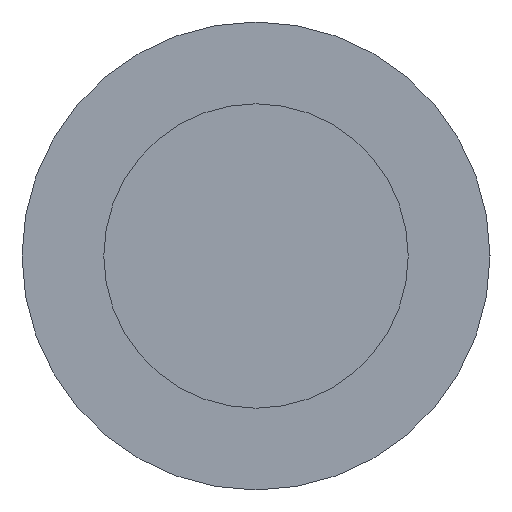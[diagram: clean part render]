
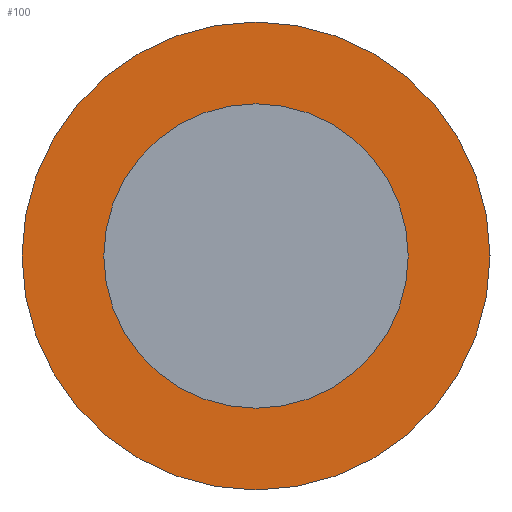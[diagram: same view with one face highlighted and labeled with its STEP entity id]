
A CAD part, left-side view. The second image highlights one B-rep face of the part: STEP entity #100.
In plain terms, the highlighted planar face has unit normal (-1, 0, 0).
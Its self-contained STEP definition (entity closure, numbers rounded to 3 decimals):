
#100 = ADVANCED_FACE( '', ( #161, #162 ), #163, .T. );
#161 = FACE_BOUND( '', #225, .T. );
#162 = FACE_OUTER_BOUND( '', #226, .T. );
#163 = PLANE( '', #227 );
#225 = EDGE_LOOP( '', ( #405, #406 ) );
#226 = EDGE_LOOP( '', ( #407, #408 ) );
#227 = AXIS2_PLACEMENT_3D( '', #409, #410, #411 );
#405 = ORIENTED_EDGE( '', *, *, #476, .F. );
#406 = ORIENTED_EDGE( '', *, *, #427, .F. );
#407 = ORIENTED_EDGE( '', *, *, #431, .T. );
#408 = ORIENTED_EDGE( '', *, *, #475, .T. );
#409 = CARTESIAN_POINT( '', ( 0., 10.15, 0. ) );
#410 = DIRECTION( '', ( -1., 0., 0. ) );
#411 = DIRECTION( '', ( 0., 1., 0. ) );
#427 = EDGE_CURVE( '', #483, #479, #485, .T. );
#431 = EDGE_CURVE( '', #487, #491, #493, .T. );
#475 = EDGE_CURVE( '', #491, #487, #565, .T. );
#476 = EDGE_CURVE( '', #479, #483, #566, .T. );
#479 = VERTEX_POINT( '', #569 );
#483 = VERTEX_POINT( '', #574 );
#485 = CIRCLE( '', #577, 8. );
#487 = VERTEX_POINT( '', #579 );
#491 = VERTEX_POINT( '', #584 );
#493 = CIRCLE( '', #587, 12.3 );
#565 = CIRCLE( '', #673, 12.3 );
#566 = CIRCLE( '', #674, 8. );
#569 = CARTESIAN_POINT( '', ( 0., 8., 0. ) );
#574 = CARTESIAN_POINT( '', ( 0., -8., 0. ) );
#577 = AXIS2_PLACEMENT_3D( '', #681, #682, #683 );
#579 = CARTESIAN_POINT( '', ( 0., 12.3, 0. ) );
#584 = CARTESIAN_POINT( '', ( 0., -12.3, 0. ) );
#587 = AXIS2_PLACEMENT_3D( '', #689, #690, #691 );
#673 = AXIS2_PLACEMENT_3D( '', #793, #794, #795 );
#674 = AXIS2_PLACEMENT_3D( '', #796, #797, #798 );
#681 = CARTESIAN_POINT( '', ( 0., 0., 0. ) );
#682 = DIRECTION( '', ( -1., 0., 0. ) );
#683 = DIRECTION( '', ( 0., 1., 0. ) );
#689 = CARTESIAN_POINT( '', ( 0., 0., 0. ) );
#690 = DIRECTION( '', ( -1., 0., 0. ) );
#691 = DIRECTION( '', ( 0., 1., 0. ) );
#793 = CARTESIAN_POINT( '', ( 0., 0., 0. ) );
#794 = DIRECTION( '', ( -1., 0., 0. ) );
#795 = DIRECTION( '', ( 0., 1., 0. ) );
#796 = CARTESIAN_POINT( '', ( 0., 0., 0. ) );
#797 = DIRECTION( '', ( -1., 0., 0. ) );
#798 = DIRECTION( '', ( 0., 1., 0. ) );
